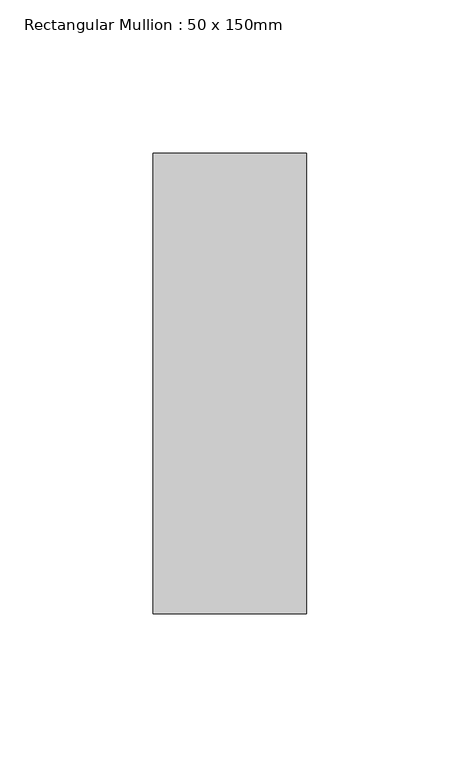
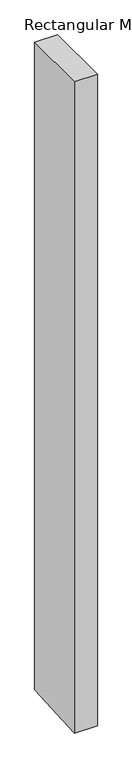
"""IFC4 building model written with IfcOpenShell, lengths in millimetres: member geometry, Rectangular Mullion : 50 x 150mm."""

import ifcopenshell
import ifcopenshell.guid

model = None  # the IFC model being written
_history = None  # IfcOwnerHistory: only IFC2X3 demands one
_inside = {}  # id of a spatial element -> (the spatial element, [elements in it])
_under = {}  # id of a project, library or spatial element -> (it, [spatial elements below it])
_declared = {}  # id of a project -> (the project, [libraries it declares])
_typed = {}  # id of a type object -> (the type object, [elements of that type])
_made_of = {}  # id of a material, layer set ... -> (it, [elements and type objects made of it])


def new_model(schema):
    """Start an empty IFC model of exactly this schema.

    Asked for "IFC4X3", IfcOpenShell would pick the latest addendum, in which some entities
    have other attributes; the version numbers below select the first issue.
    IFC2X3 requires an IfcOwnerHistory on every rooted entity: one is made here for all.
    """
    global model, _history
    if schema == "IFC4X3":
        model = ifcopenshell.file(schema_version=(4, 3, 0, 0))
    else:
        model = ifcopenshell.file(schema=schema)
    _inside.clear()
    _under.clear()
    _declared.clear()
    _typed.clear()
    _made_of.clear()
    _history = None
    if model.schema == "IFC2X3":
        org = make("IfcOrganization", Name="unknown")
        user = make(
            "IfcPersonAndOrganization",
            ThePerson=make("IfcPerson", FamilyName="unknown"),
            TheOrganization=org,
        )
        app = make(
            "IfcApplication",
            ApplicationDeveloper=org,
            Version="unknown",
            ApplicationFullName="unknown",
            ApplicationIdentifier="unknown",
        )
        _history = make(
            "IfcOwnerHistory",
            OwningUser=user,
            OwningApplication=app,
            ChangeAction="ADDED",
            CreationDate=0,
        )
    return model


def make(cls, **values):
    """One entity of the class cls with the attributes given. An attribute that is None is left unset."""
    return model.create_entity(
        cls, **{name: value for name, value in values.items() if value is not None}
    )


def rooted(cls, **values):
    """An entity with a GlobalId (a new one), such as an element, a storey or a relation."""
    return make(cls, GlobalId=ifcopenshell.guid.new(), OwnerHistory=_history, **values)


def si_unit(unit_type, name, prefix=None):
    """IfcSIUnit, for example si_unit("LENGTHUNIT", "METRE", prefix="MILLI")."""
    return make("IfcSIUnit", UnitType=unit_type, Prefix=prefix, Name=name)


def assignment(units):
    """IfcUnitAssignment: the units of a project."""
    return None if units is None else make("IfcUnitAssignment", Units=units)


def point(xyz):
    """IfcCartesianPoint."""
    return None if xyz is None else make("IfcCartesianPoint", Coordinates=xyz)


def direction(xyz):
    """IfcDirection."""
    return None if xyz is None else make("IfcDirection", DirectionRatios=xyz)


def frame(location, z_axis=None, x_axis=None):
    """IfcAxis2Placement3D, a coordinate frame: its origin and axes. An axis left out is left unset."""
    return make(
        "IfcAxis2Placement3D",
        Location=point(location),
        Axis=direction(z_axis),
        RefDirection=direction(x_axis),
    )


def origin():
    """The frame at (0, 0, 0) with its axes left unset."""
    return frame((0.0, 0.0, 0.0))


def place(relative_to, where):
    """IfcLocalPlacement: puts the frame where relative to a parent placement (None: the world)."""
    return make(
        "IfcLocalPlacement", PlacementRelTo=relative_to, RelativePlacement=where
    )


def context(
    kind, dimensions, precision=None, world=None, true_north=None, identifier=None
):
    """IfcGeometricRepresentationContext, for example the 3D "Model" context."""
    return make(
        "IfcGeometricRepresentationContext",
        ContextIdentifier=identifier,
        ContextType=kind,
        CoordinateSpaceDimension=dimensions,
        Precision=precision,
        WorldCoordinateSystem=world,
        TrueNorth=true_north,
    )


def project(units=None, contexts=None):
    """IfcProject with its units and contexts."""
    return rooted(
        "IfcProject",
        Name="project",
        RepresentationContexts=contexts,
        UnitsInContext=assignment(units),
    )


def spatial(cls, under=None, at=None, **own):
    """A site, building, storey or space (cls), placed at a placement, below another one or the project."""
    s = rooted(cls, ObjectPlacement=at, **own)
    if under is not None:
        _under.setdefault(under.id(), (under, []))[1].append(s)
    return s


def faces_of(points, faces, orient=None, outer=None):
    """IfcFace entities. A face is a list of loops; a loop is a list of indices into points, from 0.

    orient and outer hold one flag for each loop. By default every Orientation is true, the
    first loop of a face is its IfcFaceOuterBound and the others are IfcFaceBound.
    """
    made = []
    for i, loops in enumerate(faces):
        bounds = []
        for j, loop in enumerate(loops):
            is_outer = j == 0 if outer is None else outer[i][j]
            bounds.append(
                make(
                    "IfcFaceOuterBound" if is_outer else "IfcFaceBound",
                    Bound=make("IfcPolyLoop", Polygon=[points[k] for k in loop]),
                    Orientation=True if orient is None else orient[i][j],
                )
            )
        made.append(make("IfcFace", Bounds=bounds))
    return made


def faceted_brep(points, faces, orient=None, outer=None, voids=None):
    """IfcFacetedBrep: a solid bounded by flat faces; with voids (closed shells), ...WithVoids."""
    shared = [point(p) for p in points]
    hull = make("IfcClosedShell", CfsFaces=faces_of(shared, faces, orient, outer))
    if voids is None:
        return make("IfcFacetedBrep", Outer=hull)
    return make(
        "IfcFacetedBrepWithVoids",
        Outer=hull,
        Voids=[
            make(cls, CfsFaces=faces_of(shared, fs, o, b)) for cls, fs, o, b in voids
        ],
    )


def shape(context_of_items, identifier, shape_type, items):
    """IfcShapeRepresentation: the items that make up one representation, for example the "Body"."""
    return make(
        "IfcShapeRepresentation",
        ContextOfItems=context_of_items,
        RepresentationIdentifier=identifier,
        RepresentationType=shape_type,
        Items=items,
    )


def source(mapping_origin, context_of_items, identifier, shape_type, items):
    """IfcRepresentationMap: a shape defined once, which mapped items show again and again."""
    return make(
        "IfcRepresentationMap",
        MappingOrigin=mapping_origin,
        MappedRepresentation=shape(context_of_items, identifier, shape_type, items),
    )


def transform(
    local_origin,
    x_axis=None,
    y_axis=None,
    z_axis=None,
    scale=None,
    scale2=None,
    scale3=None,
    uniform=True,
):
    """IfcCartesianTransformationOperator3D, or its non-uniform kind. x_axis, y_axis, z_axis: its Axis1, 2, 3."""
    if uniform:
        return make(
            "IfcCartesianTransformationOperator3D",
            Axis1=direction(x_axis),
            Axis2=direction(y_axis),
            LocalOrigin=point(local_origin),
            Scale=scale,
            Axis3=direction(z_axis),
        )
    return make(
        "IfcCartesianTransformationOperator3DnonUniform",
        Axis1=direction(x_axis),
        Axis2=direction(y_axis),
        LocalOrigin=point(local_origin),
        Scale=scale,
        Axis3=direction(z_axis),
        Scale2=scale2,
        Scale3=scale3,
    )


def mapped(mapping_source, mapping_target):
    """IfcMappedItem: shows the shape of a source again, moved by a transform."""
    return make(
        "IfcMappedItem", MappingSource=mapping_source, MappingTarget=mapping_target
    )


def made_of(thing, what):
    """Note that an element or type object is made of a material, layer set ...; save() writes the relation."""
    if what is not None:
        _made_of.setdefault(what.id(), (what, []))[1].append(thing)
    return thing


def element(
    cls,
    number,
    at=None,
    inside=None,
    cuts=None,
    type_object=None,
    material=None,
    context=None,
    identifier="Body",
    shape_type=None,
    held_by="IfcProductDefinitionShape",
    body=None,
    shapes=None,
    **own,
):
    """One element of the class cls, such as IfcWall. Its Tag is "e" and its number.

    at: its placement. inside: the storey or other place that contains it. cuts: it is an
    opening in that element (IfcRelVoidsElement). A single representation is given by context,
    identifier, shape_type and body (its items); several are given by shapes. held_by: the class
    of the entity that holds the representations. save() writes the other relations.
    """
    e = rooted(cls, Tag="e%d" % number, ObjectPlacement=at, **own)
    if body is not None:
        shapes = [shape(context, identifier, shape_type, body)]
    if shapes is not None:
        e.Representation = make(held_by, Representations=shapes)
    if inside is not None:
        _inside.setdefault(inside.id(), (inside, []))[1].append(e)
    if cuts is not None:
        rooted(
            "IfcRelVoidsElement", RelatingBuildingElement=cuts, RelatedOpeningElement=e
        )
    if type_object is not None:
        _typed.setdefault(type_object.id(), (type_object, []))[1].append(e)
    return made_of(e, material)


def aggregate(whole, parts):
    """IfcRelAggregates: a whole, such as a stair, and the parts it consists of."""
    return rooted("IfcRelAggregates", RelatingObject=whole, RelatedObjects=parts)


def save(model, path):
    """Write the relations noted so far, then the file.

    IfcRelAggregates (storeys below a building ...), IfcRelContainedInSpatialStructure (elements
    in a storey), IfcRelDefinesByType, IfcRelAssociatesMaterial and IfcRelDeclares: one each for
    every whole, place, type object, material and project.
    """
    for whole, parts in _under.values():
        aggregate(whole, parts)
    for where, things in _inside.values():
        rooted(
            "IfcRelContainedInSpatialStructure",
            RelatedElements=things,
            RelatingStructure=where,
        )
    for kind, things in _typed.values():
        rooted("IfcRelDefinesByType", RelatedObjects=things, RelatingType=kind)
    for what, things in _made_of.values():
        rooted("IfcRelAssociatesMaterial", RelatedObjects=things, RelatingMaterial=what)
    for by, libraries in _declared.values():
        rooted("IfcRelDeclares", RelatingContext=by, RelatedDefinitions=libraries)
    model.write(path)


def rectangular_mullion_50_x_150mm_0909581f(model_context):
    return source(origin(), model_context, "Body", "Brep", [
        faceted_brep([(0.0, 75.0, 0.0), (-50.0, 75.0, 0.0), (-50.0, -75.0, 0.0), (0.0, -75.0, 0.0), (0.0, 75.0, -1492.7186944), (-50.0, 75.0, -1492.7127196), (-50.0, -75.0, -1502.1996255), (0.0, -75.0, -1502.2056004)], [[[0, 1, 2, 3]], [[1, 0, 4, 5]], [[2, 1, 5, 6]], [[3, 2, 6, 7]], [[0, 3, 7, 4]], [[4, 7, 6, 5]]]),
    ])


if __name__ == "__main__":
    model = new_model("IFC4")
    model_context = context("Model", 3, world=origin())
    ifc_project = project(units=[si_unit("LENGTHUNIT", "METRE", prefix="MILLI")], contexts=[model_context])
    site = spatial("IfcSite", under=ifc_project)
    building = spatial("IfcBuilding", under=site)
    placement = place(None, origin())
    rectangular_mullion_50_x_150mm_shape = rectangular_mullion_50_x_150mm_0909581f(model_context)
    element("IfcMember", 1, ObjectType="Rectangular Mullion : 50 x 150mm", at=placement, inside=building, context=model_context, shape_type="MappedRepresentation", body=[
        mapped(rectangular_mullion_50_x_150mm_shape, transform((0.0, 0.0, 0.0), x_axis=(1.0, 0.0, 0.0), y_axis=(0.0, 1.0, 0.0), z_axis=(0.0, 0.0, 1.0))),
    ])
    save(model, "model.ifc")
